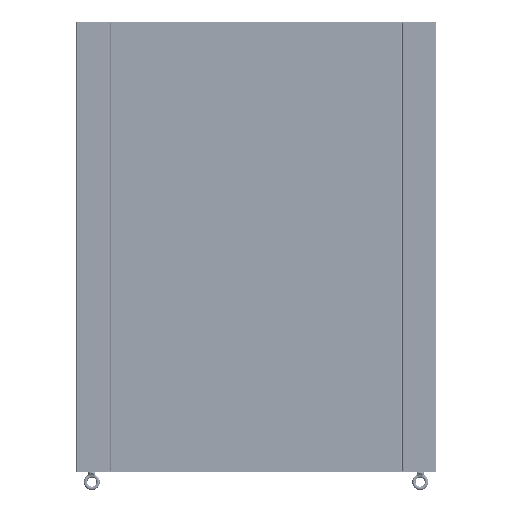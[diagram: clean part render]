
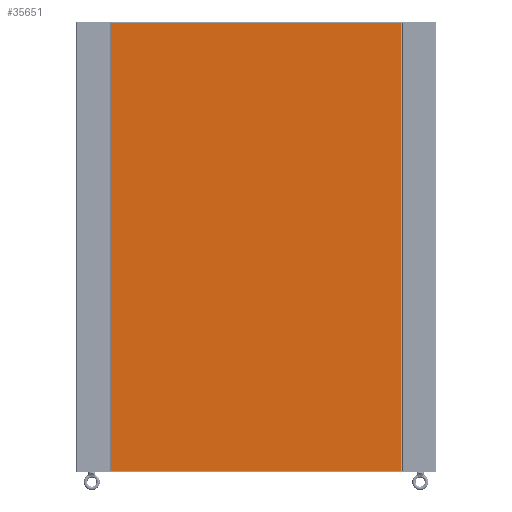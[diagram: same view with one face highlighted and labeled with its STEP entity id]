
A CAD part, left-side view. The second image highlights one B-rep face of the part: STEP entity #35651.
In plain terms, the highlighted planar face has unit normal (-1, 0, 0) as drawn and (0, 0, -1) by its records, which use the part's own axes.
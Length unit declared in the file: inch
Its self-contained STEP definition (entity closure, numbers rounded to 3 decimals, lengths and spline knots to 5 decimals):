
#34672=DIRECTION('',(0.,-1.,0.));
#34673=VECTOR('',#34672,59.792);
#34674=CARTESIAN_POINT('',(-19.311,29.896,-0.104));
#34675=LINE('',#34674,#34673);
#34862=DIRECTION('',(0.,1.,0.));
#34863=VECTOR('',#34862,59.792);
#34864=CARTESIAN_POINT('',(19.311,-29.896,-0.104));
#34865=LINE('',#34864,#34863);
#35023=DIRECTION('',(-1.,0.,0.));
#35024=VECTOR('',#35023,38.622);
#35025=CARTESIAN_POINT('',(19.311,29.896,-0.104));
#35026=LINE('',#35025,#35024);
#35030=DIRECTION('',(1.,0.,0.));
#35031=VECTOR('',#35030,38.622);
#35032=CARTESIAN_POINT('',(-19.311,-29.896,-0.104));
#35033=LINE('',#35032,#35031);
#35041=CARTESIAN_POINT('',(-19.311,-29.896,-0.104));
#35042=VERTEX_POINT('',#35041);
#35043=CARTESIAN_POINT('',(-19.311,29.896,-0.104));
#35044=VERTEX_POINT('',#35043);
#35057=CARTESIAN_POINT('',(19.311,29.896,-0.104));
#35058=VERTEX_POINT('',#35057);
#35059=CARTESIAN_POINT('',(19.311,-29.896,-0.104));
#35060=VERTEX_POINT('',#35059);
#35640=CARTESIAN_POINT('',(0.,0.,-0.104));
#35641=DIRECTION('',(0.,0.,1.));
#35642=DIRECTION('',(1.,0.,0.));
#35643=AXIS2_PLACEMENT_3D('',#35640,#35641,#35642);
#35644=PLANE('',#35643);
#35645=ORIENTED_EDGE('',*,*,#35132,.T.);
#35646=ORIENTED_EDGE('',*,*,#35177,.T.);
#35647=ORIENTED_EDGE('',*,*,#35391,.T.);
#35648=ORIENTED_EDGE('',*,*,#35435,.T.);
#35649=EDGE_LOOP('',(#35645,#35646,#35647,#35648));
#35650=FACE_OUTER_BOUND('',#35649,.F.);
#35132=EDGE_CURVE('',#35058,#35044,#35026,.T.);
#35177=EDGE_CURVE('',#35044,#35042,#34675,.T.);
#35391=EDGE_CURVE('',#35042,#35060,#35033,.T.);
#35435=EDGE_CURVE('',#35060,#35058,#34865,.T.);
#35651=ADVANCED_FACE('',(#35650),#35644,.F.);
